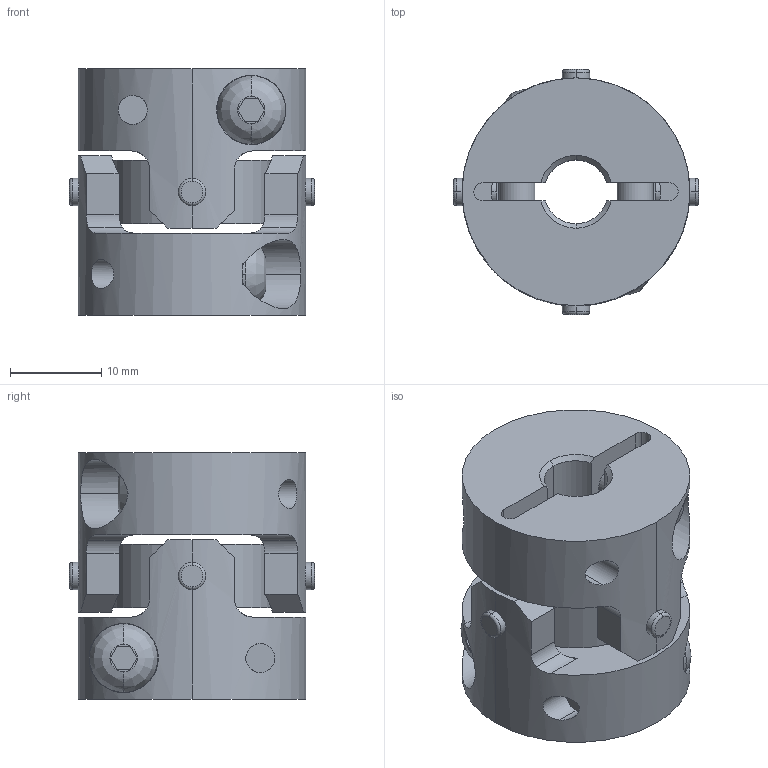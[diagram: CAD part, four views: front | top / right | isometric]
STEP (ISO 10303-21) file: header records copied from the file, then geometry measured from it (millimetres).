
FILE_DESCRIPTION((''),'2;1');
FILE_NAME('UA-25C-7×9.525.stp','2013-05-16T09:27:30',(''),(''),'AutoCAD STEP 2000i','AutoCAD 2000i',', , ');
FILE_SCHEMA(('CONFIG_CONTROL_DESIGN'));
Length unit declared in the file: millimetre
Products named in the file (7): UA-25C-5×9; 忣兜1; UA-2502-D09; BTN-M4; UA-2502-D05-1; UA-2502-D05; UA25-SEN
Assembly tree (8 placements, depth 3):
  UA-25C-5×9
    忣兜1
    UA-2502-D09
      BTN-M4
    UA-2502-D05-1
      BTN-M4
    UA-2502-D05
      BTN-M4
    UA25-SEN
Bounding box: 26.89 x 26.89 x 27 mm (x, y, z)
Volume: 9047.3 mm3; surface area: 6380.3 mm2
Topology: 1 solids, 1 shells, 208 faces, 562 edges, 368 vertices
Faces by surface type: cylinder 96, plane 80, cone 16, bspline 8, torus 8
Entity records: 8385 total; most frequent: CARTESIAN_POINT 2983, ORIENTED_EDGE 1124, DIRECTION 1084, EDGE_CURVE 562, AXIS2_PLACEMENT_3D 417, VERTEX_POINT 368, VECTOR 250, LINE 250
